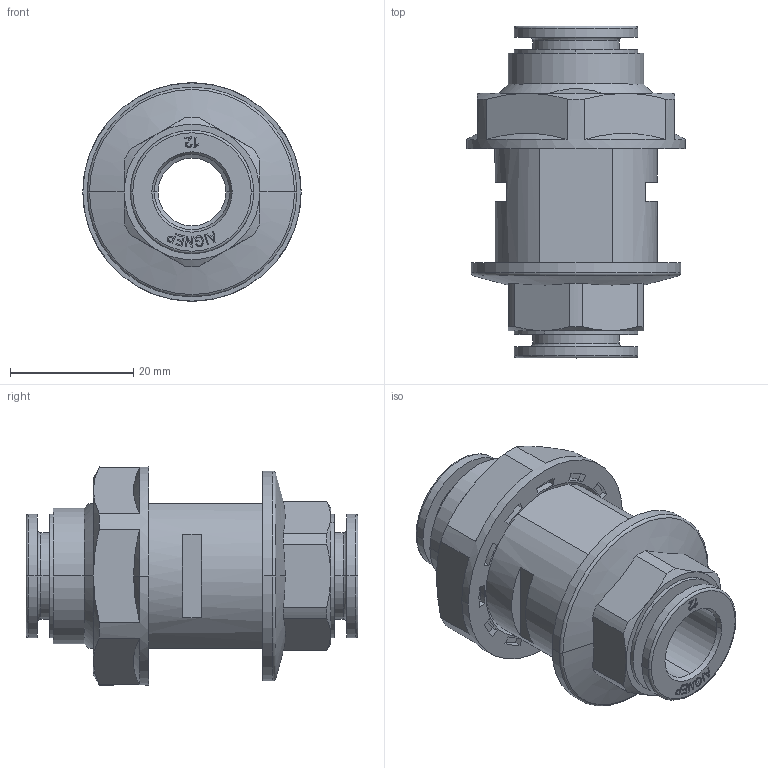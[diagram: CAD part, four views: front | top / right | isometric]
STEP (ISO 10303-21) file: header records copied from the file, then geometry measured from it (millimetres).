
FILE_DESCRIPTION (( 'STEP AP214' ), '1' );
FILE_NAME ('5405000005A.STEP', '2024-09-19T07:53:11', ( '' ), ( '' ), 'SwSTEP 2.0', 'SolidWorks 2020', '' );
FILE_SCHEMA (( 'AUTOMOTIVE_DESIGN' ));
Length unit declared in the file: millimetre
Products named in the file (1): 5405000005A
Bounding box: 35.4 x 53.8 x 35.4 mm (x, y, z)
Volume: 21839.3 mm3; surface area: 9705.7 mm2
Topology: 1 solids, 1 shells, 366 faces, 940 edges, 614 vertices
Faces by surface type: plane 207, cylinder 62, bspline 52, cone 35, torus 10
Entity records: 18024 total; most frequent: CARTESIAN_POINT 5348, ORIENTED_EDGE 1880, DIRECTION 1596, EDGE_CURVE 940, VERTEX_POINT 614, VECTOR 596, LINE 596, AXIS2_PLACEMENT_3D 500
